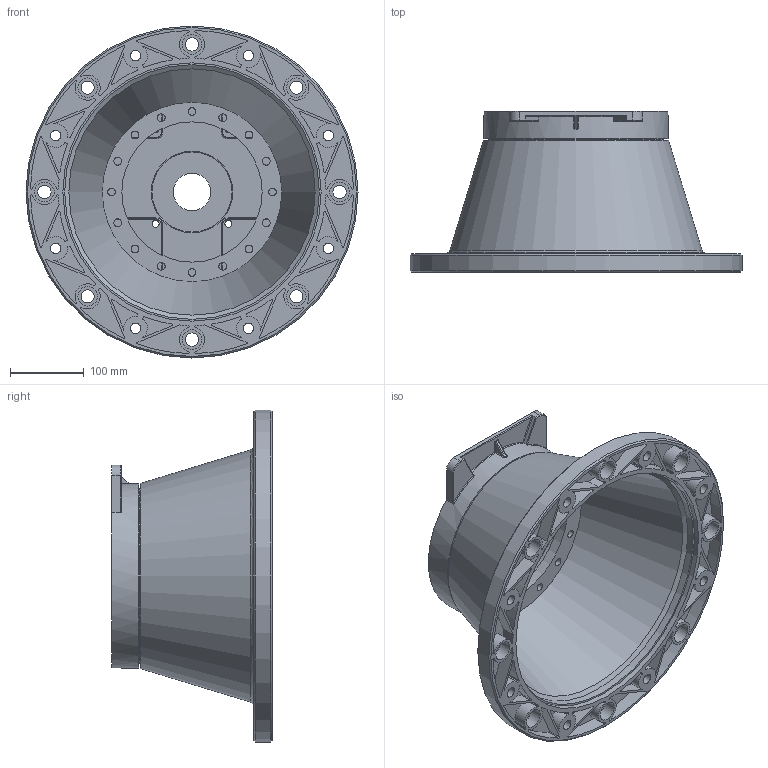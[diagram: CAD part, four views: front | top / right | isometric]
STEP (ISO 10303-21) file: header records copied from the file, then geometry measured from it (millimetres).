
FILE_DESCRIPTION(('STEP AP203'),'2;1');
FILE_NAME('LS456.stp','2005-07-21T17:45:39',(''),(''),'9.0.0','THINKDESIGN','');
FILE_SCHEMA(('CONFIG_CONTROL_DESIGN'));
Length unit declared in the file: millimetre
Bounding box: 450 x 218 x 450 mm (x, y, z)
Volume: 2666396.2 mm3; surface area: 819419.5 mm2
Topology: 3 solids, 3 shells, 625 faces, 1726 edges, 1146 vertices
Faces by surface type: cylinder 330, plane 168, bspline 127
Full cylindrical faces by diameter (mm): 9.5 x4, 10.25 x4, 10.5 x16, 14 x8, 18 x8, 26.5 x8, 50.8 x1, 108.5 x1, 110 x2, 190 x1, 237 x2, 250 x1, 345 x1, 348 x1, 350 x1, 450 x1
Entity records: 27995 total; most frequent: CARTESIAN_POINT 11534, DIRECTION 3498, ORIENTED_EDGE 3428, EDGE_CURVE 1714, AXIS2_PLACEMENT_3D 1392, VERTEX_POINT 1146, CIRCLE 894, EDGE_LOOP 754
